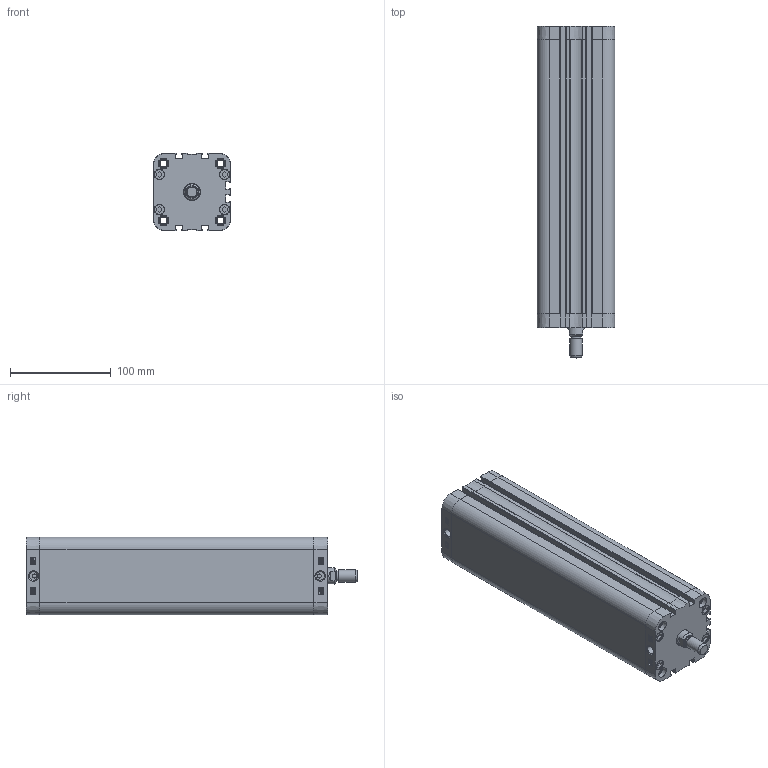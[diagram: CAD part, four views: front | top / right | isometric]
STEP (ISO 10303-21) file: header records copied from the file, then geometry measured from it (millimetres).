
FILE_DESCRIPTION((''),'2;1');
FILE_NAME('T:\Archivio Inventor\- CATALOGHI 2012\SERIE P - NUOVA\PDM\PDM063\PDM063.---.GS.M\PDM063.250.GS.M.stp','2013-02-04T09:32:41',('Administrator'),(''),'Autodesk Inventor 2012','Autodesk Inventor 2012','');
FILE_SCHEMA(('CONFIG_CONTROL_DESIGN'));
Length unit declared in the file: millimetre
Products named in the file (1): PDM063.250.GS.M
Bounding box: 77 x 329 x 77 mm (x, y, z)
Volume: 637975 mm3; surface area: 251810.7 mm2
Topology: 1 solids, 5 shells, 824 faces, 1993 edges, 1252 vertices
Faces by surface type: plane 346, bspline 218, cylinder 142, torus 55, cone 45, sphere 18
Full cylindrical faces by diameter (mm): 4 x2, 6.3 x4, 6.647 x8, 8.047 x4, 8.566 x2, 9.8 x8, 10 x1, 10.3 x8, 10.5 x8, 12 x2, 16 x1, 16.5 x1, 63 x1, 65.4 x1, 65.6 x1
Entity records: 27360 total; most frequent: CARTESIAN_POINT 9112, ORIENTED_EDGE 3744, DIRECTION 3031, EDGE_CURVE 1872, VERTEX_POINT 1231, AXIS2_PLACEMENT_3D 1026, EDGE_LOOP 1003, VECTOR 979
